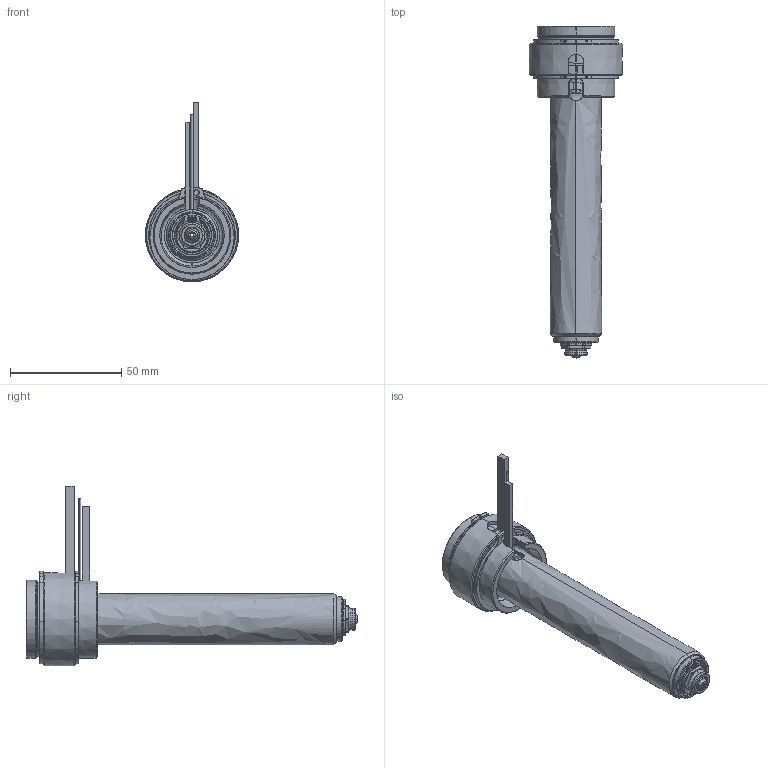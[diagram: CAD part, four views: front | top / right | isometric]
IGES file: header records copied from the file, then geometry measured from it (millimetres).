
Start section: SolidWorks IGES file using analytic representation for surfaces
Global section: file name: C:\Documents and Settings\ws-20\Desktop\TEM\UGER3553-S-A-0 [Øb-1.50  ØC-7.0].IGS; native system: SolidWorks 2012; preprocessor: SolidWorks 2012; author: ws-20; date: 120410.101118; units: millimetre
Bounding box: 42 x 149.4 x 80.9 mm (x, y, z)
Surface area: 37892.4 mm2 (no closed solid volume)
Topology: 0 solids, 0 shells, 209 faces, 3586 edges, 3586 vertices
Faces by surface type: revolution 134, bspline 75
